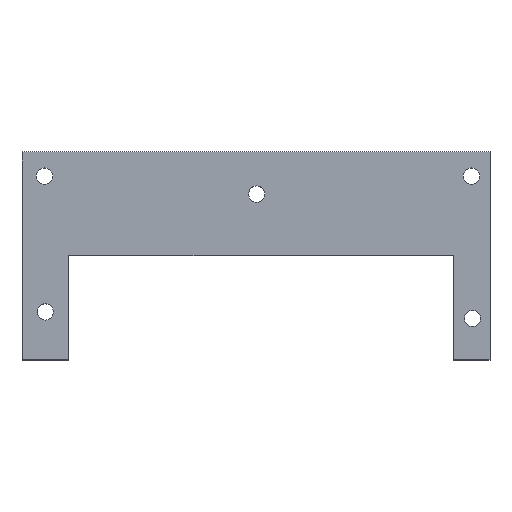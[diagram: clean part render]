
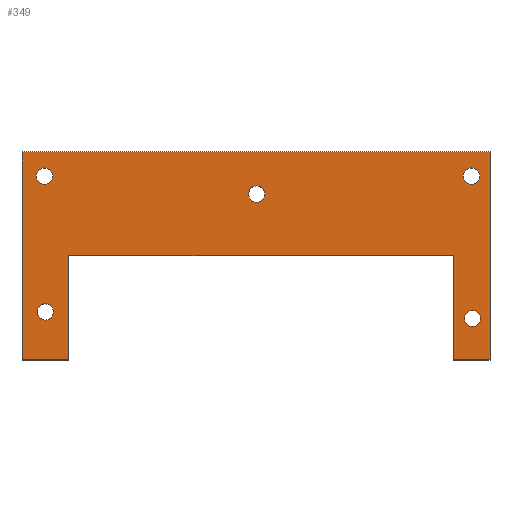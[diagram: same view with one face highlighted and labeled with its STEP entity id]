
A CAD part, top view. The second image highlights one B-rep face of the part: STEP entity #349.
In plain terms, the highlighted planar face has unit normal (0, 0, 1).
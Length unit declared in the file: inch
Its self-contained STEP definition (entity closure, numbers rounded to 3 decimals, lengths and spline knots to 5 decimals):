
#24=FACE_BOUND('',#81,.T.);
#25=FACE_BOUND('',#82,.T.);
#26=FACE_BOUND('',#83,.T.);
#27=FACE_BOUND('',#84,.T.);
#28=FACE_BOUND('',#85,.T.);
#37=PLANE('',#396);
#54=FACE_OUTER_BOUND('',#80,.T.);
#80=EDGE_LOOP('',(#312,#313,#314,#315,#316,#317,#318,#319));
#81=EDGE_LOOP('',(#320));
#82=EDGE_LOOP('',(#321));
#83=EDGE_LOOP('',(#322));
#84=EDGE_LOOP('',(#323));
#85=EDGE_LOOP('',(#324));
#89=LINE('',#515,#118);
#92=LINE('',#521,#121);
#104=LINE('',#566,#133);
#106=LINE('',#570,#135);
#109=LINE('',#575,#138);
#110=LINE('',#578,#139);
#112=LINE('',#582,#141);
#114=LINE('',#585,#143);
#118=VECTOR('',#420,0.3937);
#121=VECTOR('',#425,0.3937);
#133=VECTOR('',#471,0.3937);
#135=VECTOR('',#475,0.3937);
#138=VECTOR('',#480,0.3937);
#139=VECTOR('',#483,0.3937);
#141=VECTOR('',#487,0.3937);
#143=VECTOR('',#491,0.3937);
#145=CIRCLE('',#366,0.0625);
#147=CIRCLE('',#369,0.0625);
#155=CIRCLE('',#382,0.0625);
#156=CIRCLE('',#384,0.0625);
#157=CIRCLE('',#386,0.0625);
#161=VERTEX_POINT('',#498);
#163=VERTEX_POINT('',#504);
#165=VERTEX_POINT('',#509);
#167=VERTEX_POINT('',#513);
#169=VERTEX_POINT('',#519);
#180=VERTEX_POINT('',#547);
#181=VERTEX_POINT('',#551);
#182=VERTEX_POINT('',#555);
#185=VERTEX_POINT('',#565);
#186=VERTEX_POINT('',#569);
#187=VERTEX_POINT('',#573);
#188=VERTEX_POINT('',#577);
#189=VERTEX_POINT('',#581);
#192=EDGE_CURVE('',#161,#161,#145,.T.);
#195=EDGE_CURVE('',#163,#163,#147,.T.);
#199=EDGE_CURVE('',#167,#165,#89,.T.);
#202=EDGE_CURVE('',#167,#169,#92,.T.);
#216=EDGE_CURVE('',#180,#180,#155,.T.);
#218=EDGE_CURVE('',#181,#181,#156,.T.);
#220=EDGE_CURVE('',#182,#182,#157,.T.);
#224=EDGE_CURVE('',#185,#165,#104,.T.);
#226=EDGE_CURVE('',#186,#185,#106,.T.);
#229=EDGE_CURVE('',#169,#187,#109,.T.);
#230=EDGE_CURVE('',#188,#186,#110,.T.);
#232=EDGE_CURVE('',#187,#189,#112,.T.);
#234=EDGE_CURVE('',#189,#188,#114,.T.);
#312=ORIENTED_EDGE('',*,*,#202,.T.);
#313=ORIENTED_EDGE('',*,*,#229,.T.);
#314=ORIENTED_EDGE('',*,*,#232,.T.);
#315=ORIENTED_EDGE('',*,*,#234,.T.);
#316=ORIENTED_EDGE('',*,*,#230,.T.);
#317=ORIENTED_EDGE('',*,*,#226,.T.);
#318=ORIENTED_EDGE('',*,*,#224,.T.);
#319=ORIENTED_EDGE('',*,*,#199,.F.);
#320=ORIENTED_EDGE('',*,*,#192,.T.);
#321=ORIENTED_EDGE('',*,*,#195,.T.);
#322=ORIENTED_EDGE('',*,*,#216,.T.);
#323=ORIENTED_EDGE('',*,*,#218,.T.);
#324=ORIENTED_EDGE('',*,*,#220,.T.);
#349=ADVANCED_FACE('',(#54,#24,#25,#26,#27,#28),#37,.F.);
#366=AXIS2_PLACEMENT_3D('',#500,#404,#405);
#369=AXIS2_PLACEMENT_3D('',#506,#411,#412);
#382=AXIS2_PLACEMENT_3D('',#549,#450,#451);
#384=AXIS2_PLACEMENT_3D('',#553,#455,#456);
#386=AXIS2_PLACEMENT_3D('',#557,#460,#461);
#396=AXIS2_PLACEMENT_3D('',#586,#492,#493);
#404=DIRECTION('center_axis',(0.,0.,-1.));
#405=DIRECTION('ref_axis',(1.,0.,0.));
#411=DIRECTION('center_axis',(0.,0.,-1.));
#412=DIRECTION('ref_axis',(1.,0.,0.));
#420=DIRECTION('',(-1.,0.,0.));
#425=DIRECTION('',(0.,-1.,0.));
#450=DIRECTION('center_axis',(0.,0.,-1.));
#451=DIRECTION('ref_axis',(1.,0.,0.));
#455=DIRECTION('center_axis',(0.,0.,-1.));
#456=DIRECTION('ref_axis',(1.,0.,0.));
#460=DIRECTION('center_axis',(0.,0.,-1.));
#461=DIRECTION('ref_axis',(1.,0.,0.));
#471=DIRECTION('',(0.,1.,0.));
#475=DIRECTION('',(1.,0.,0.));
#480=DIRECTION('',(1.,0.,0.));
#483=DIRECTION('',(0.,-1.,0.));
#487=DIRECTION('',(0.,1.,0.));
#491=DIRECTION('',(-1.,0.,0.));
#492=DIRECTION('center_axis',(0.,0.,-1.));
#493=DIRECTION('ref_axis',(1.,0.,0.));
#498=CARTESIAN_POINT('',(-1.68899,-0.88547,1.875));
#500=CARTESIAN_POINT('Origin',(-1.62649,-0.88547,1.875));
#504=CARTESIAN_POINT('',(1.59487,-0.88547,1.875));
#506=CARTESIAN_POINT('Origin',(1.65737,-0.88547,1.875));
#509=CARTESIAN_POINT('',(-1.44053,-1.49771,1.875));
#513=CARTESIAN_POINT('',(1.51969,-1.49771,1.875));
#515=CARTESIAN_POINT('',(1.51969,-1.49771,1.875));
#519=CARTESIAN_POINT('',(1.51969,-2.3,1.875));
#521=CARTESIAN_POINT('',(1.51969,-1.99098,1.875));
#547=CARTESIAN_POINT('',(1.60335,-1.98064,1.875));
#549=CARTESIAN_POINT('Origin',(1.66585,-1.98064,1.875));
#551=CARTESIAN_POINT('',(-0.0575,-1.02363,1.875));
#553=CARTESIAN_POINT('Origin',(0.005,-1.02363,1.875));
#555=CARTESIAN_POINT('',(-1.68286,-1.9305,1.875));
#557=CARTESIAN_POINT('Origin',(-1.62036,-1.9305,1.875));
#565=CARTESIAN_POINT('',(-1.44053,-2.3,1.875));
#566=CARTESIAN_POINT('',(-1.44053,-1.99098,1.875));
#569=CARTESIAN_POINT('',(-1.8,-2.3,1.875));
#570=CARTESIAN_POINT('',(-1.8,-2.3,1.875));
#573=CARTESIAN_POINT('',(1.8,-2.3,1.875));
#575=CARTESIAN_POINT('',(-1.8,-2.3,1.875));
#577=CARTESIAN_POINT('',(-1.8,-0.7,1.875));
#578=CARTESIAN_POINT('',(-1.8,-0.7,1.875));
#581=CARTESIAN_POINT('',(1.8,-0.7,1.875));
#582=CARTESIAN_POINT('',(1.8,-2.3,1.875));
#585=CARTESIAN_POINT('',(1.8,-0.7,1.875));
#586=CARTESIAN_POINT('Origin',(0.,-1.5,1.875));
